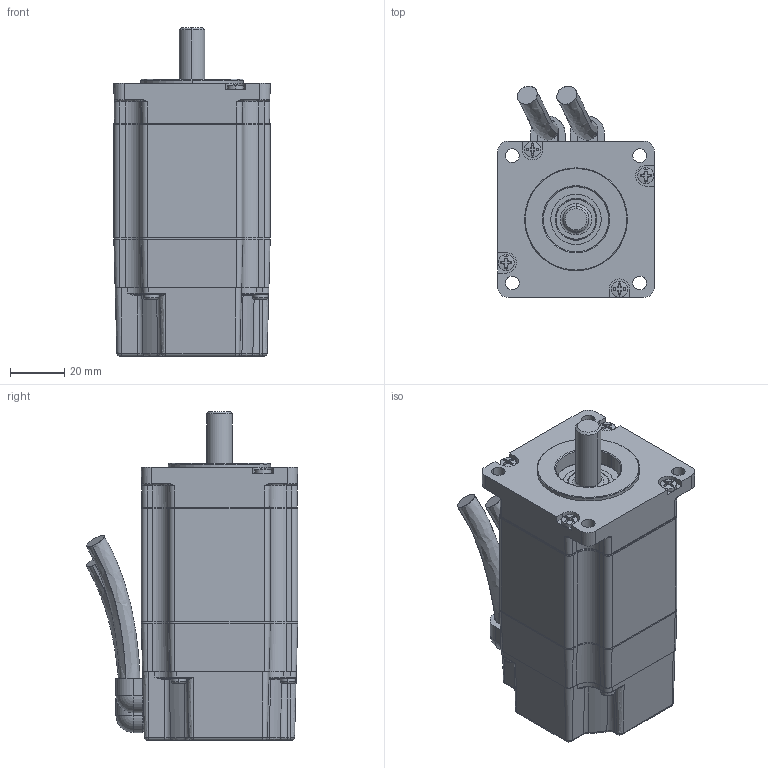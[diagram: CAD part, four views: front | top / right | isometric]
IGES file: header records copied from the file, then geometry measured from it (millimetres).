
Start section:  PTC IGES file: vlm21b.igs
Global section: file name: vlm21b.igs; native system: Pro/ENGINEER by Parametric Technology Corporation; preprocessor: 2006510; author: Ray.Dobbins; organization: Unknown; date: 20110715.111758; units: inch
Bounding box: 57.91 x 78.26 x 121.55 mm (x, y, z)
Surface area: 106677.8 mm2 (no closed solid volume)
Topology: 0 solids, 0 shells, 1804 faces, 9564 edges, 9554 vertices
Faces by surface type: revolution 1055, bspline 749
